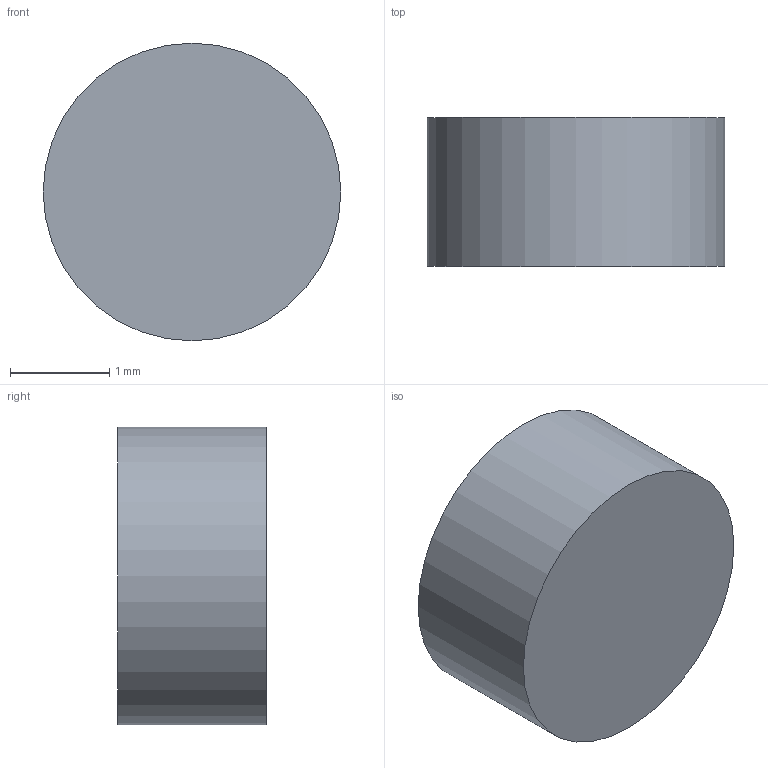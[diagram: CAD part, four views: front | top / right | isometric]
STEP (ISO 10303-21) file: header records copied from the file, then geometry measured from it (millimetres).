
FILE_DESCRIPTION(('FreeCAD Model'),'2;1');
FILE_NAME('Open CASCADE Shape Model','2026-11-17T15:16:24',('FreeCAD'),( 'FreeCAD'),'Open CASCADE STEP processor 7.8','FreeCAD','Unknown');
FILE_SCHEMA(('AUTOMOTIVE_DESIGN { 1 0 10303 214 1 1 1 1 }'));
Length unit declared in the file: millimetre
Products named in the file (1): Open CASCADE STEP translator 7.8 14
Bounding box: 3 x 1.5 x 3 mm (x, y, z)
Volume: 10.6 mm3; surface area: 28.3 mm2
Topology: 1 solids, 1 shells, 3 faces, 3 edges, 2 vertices
Faces by surface type: plane 2, cylinder 1
Full cylindrical faces by diameter (mm): 3 x1
Entity records: 69 total; most frequent: DIRECTION 13, CARTESIAN_POINT 9, AXIS2_PLACEMENT_3D 6, ORIENTED_EDGE 6, ADVANCED_FACE 3, FACE_BOUND 3, EDGE_LOOP 3, EDGE_CURVE 3
